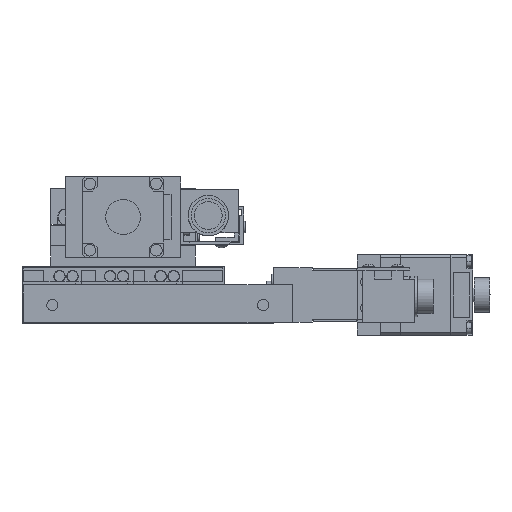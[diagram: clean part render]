
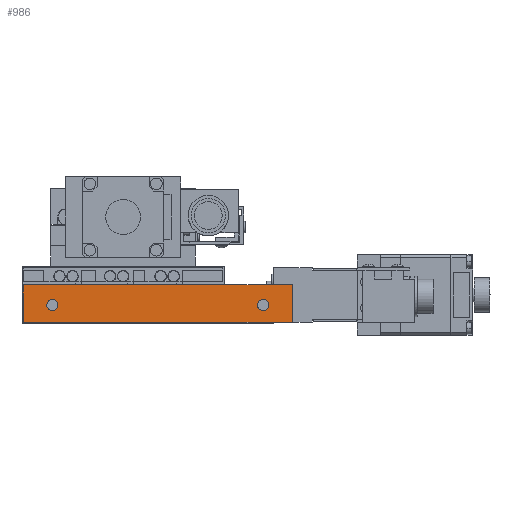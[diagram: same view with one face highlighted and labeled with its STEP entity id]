
A CAD part, front view. The second image highlights one B-rep face of the part: STEP entity #986.
In plain terms, the highlighted planar face has unit normal (0, -1, 0).
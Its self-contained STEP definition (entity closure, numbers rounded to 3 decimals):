
#986=ADVANCED_FACE('',(#2678,#2679,#2680),#2681,.F.);
#2678=FACE_BOUND('',#5474,.T.);
#2679=FACE_BOUND('',#5475,.T.);
#2680=FACE_OUTER_BOUND('',#5476,.T.);
#2681=PLANE('',#5477);
#5474=EDGE_LOOP('',(#10221,#10222));
#5475=EDGE_LOOP('',(#10223,#10224));
#5476=EDGE_LOOP('',(#10225,#10226,#10227,#10228));
#5477=AXIS2_PLACEMENT_3D('',#10229,#10230,#10231);
#10221=ORIENTED_EDGE('',*,*,#18862,.T.);
#10222=ORIENTED_EDGE('',*,*,#18831,.T.);
#10223=ORIENTED_EDGE('',*,*,#18863,.T.);
#10224=ORIENTED_EDGE('',*,*,#18835,.T.);
#10225=ORIENTED_EDGE('',*,*,#18864,.T.);
#10226=ORIENTED_EDGE('',*,*,#18865,.F.);
#10227=ORIENTED_EDGE('',*,*,#18866,.F.);
#10228=ORIENTED_EDGE('',*,*,#18859,.T.);
#10229=CARTESIAN_POINT('',(58.5,-41.8,13.5));
#10230=DIRECTION('',(0.,1.0,0.));
#10231=DIRECTION('',(0.,0.,-1.0));
#18831=EDGE_CURVE('',#22622,#22626,#22628,.T.);
#18835=EDGE_CURVE('',#22630,#22634,#22636,.T.);
#18859=EDGE_CURVE('',#22680,#22678,#22681,.T.);
#18862=EDGE_CURVE('',#22626,#22622,#22685,.T.);
#18863=EDGE_CURVE('',#22634,#22630,#22686,.T.);
#18864=EDGE_CURVE('',#22678,#22687,#22688,.T.);
#18865=EDGE_CURVE('',#22689,#22687,#22690,.T.);
#18866=EDGE_CURVE('',#22680,#22689,#22691,.T.);
#22622=VERTEX_POINT('',#28514);
#22626=VERTEX_POINT('',#28519);
#22628=CIRCLE('',#28522,1.95);
#22630=VERTEX_POINT('',#28524);
#22634=VERTEX_POINT('',#28529);
#22636=CIRCLE('',#28532,1.95);
#22678=VERTEX_POINT('',#28588);
#22680=VERTEX_POINT('',#28591);
#22681=LINE('',#28592,#28593);
#22685=CIRCLE('',#28599,1.95);
#22686=CIRCLE('',#28600,1.95);
#22687=VERTEX_POINT('',#28601);
#22688=LINE('',#28602,#28603);
#22689=VERTEX_POINT('',#28604);
#22690=LINE('',#28605,#28606);
#22691=LINE('',#28607,#28608);
#28514=CARTESIAN_POINT('',(-22.55,-41.8,6.5));
#28519=CARTESIAN_POINT('',(-26.45,-41.8,6.5));
#28522=AXIS2_PLACEMENT_3D('',#35747,#35748,#35749);
#28524=CARTESIAN_POINT('',(50.45,-41.8,6.5));
#28529=CARTESIAN_POINT('',(46.55,-41.8,6.5));
#28532=AXIS2_PLACEMENT_3D('',#35755,#35756,#35757);
#28588=CARTESIAN_POINT('',(-34.5,-41.8,13.5));
#28591=CARTESIAN_POINT('',(58.5,-41.8,13.5));
#28592=CARTESIAN_POINT('',(58.5,-41.8,13.5));
#28593=VECTOR('',#35797,1000.0);
#28599=AXIS2_PLACEMENT_3D('',#35800,#35801,#35802);
#28600=AXIS2_PLACEMENT_3D('',#35803,#35804,#35805);
#28601=CARTESIAN_POINT('',(-34.5,-41.8,0.5));
#28602=CARTESIAN_POINT('',(-34.5,-41.8,13.5));
#28603=VECTOR('',#35806,1000.0);
#28604=CARTESIAN_POINT('',(58.5,-41.8,0.5));
#28605=CARTESIAN_POINT('',(58.5,-41.8,0.5));
#28606=VECTOR('',#35807,1000.0);
#28607=CARTESIAN_POINT('',(58.5,-41.8,13.5));
#28608=VECTOR('',#35808,1000.0);
#35747=CARTESIAN_POINT('',(-24.5,-41.8,6.5));
#35748=DIRECTION('',(0.,1.0,0.));
#35749=DIRECTION('',(-1.0,0.,0.));
#35755=CARTESIAN_POINT('',(48.5,-41.8,6.5));
#35756=DIRECTION('',(0.,1.0,0.));
#35757=DIRECTION('',(-1.0,0.,0.));
#35797=DIRECTION('',(-1.0,0.,0.));
#35800=CARTESIAN_POINT('',(-24.5,-41.8,6.5));
#35801=DIRECTION('',(0.,1.0,0.));
#35802=DIRECTION('',(-1.0,0.,0.));
#35803=CARTESIAN_POINT('',(48.5,-41.8,6.5));
#35804=DIRECTION('',(0.,1.0,0.));
#35805=DIRECTION('',(-1.0,0.,0.));
#35806=DIRECTION('',(0.,0.,-1.0));
#35807=DIRECTION('',(-1.0,0.,0.));
#35808=DIRECTION('',(0.,0.,-1.0));
